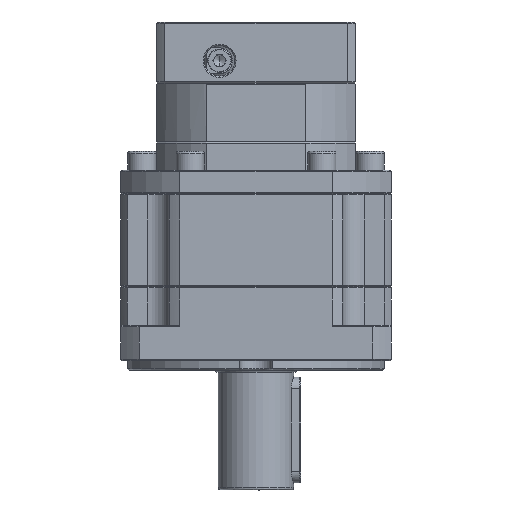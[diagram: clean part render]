
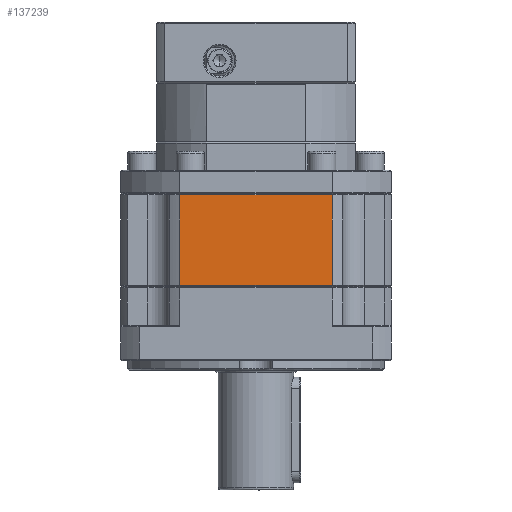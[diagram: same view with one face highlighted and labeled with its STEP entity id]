
A CAD part, front view. The second image highlights one B-rep face of the part: STEP entity #137239.
In plain terms, the highlighted planar face has unit normal (0, -1, 0).
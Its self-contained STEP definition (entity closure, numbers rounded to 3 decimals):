
#7378 = LINE ( 'NONE', #73364, #91417 ) ;
#8571 = DIRECTION ( 'NONE',  ( -1., 0., 0. ) ) ;
#14851 = DIRECTION ( 'NONE',  ( 1., 0., 0. ) ) ;
#18142 = VECTOR ( 'NONE', #49618, 1000. ) ;
#24256 = FACE_OUTER_BOUND ( 'NONE', #132597, .T. ) ;
#27385 = ORIENTED_EDGE ( 'NONE', *, *, #117340, .F. ) ;
#31471 = EDGE_CURVE ( 'NONE', #102543, #81424, #130819, .T. ) ;
#36442 = DIRECTION ( 'NONE',  ( 0., 0., 1. ) ) ;
#37966 = EDGE_CURVE ( 'NONE', #81424, #109333, #53628, .T. ) ;
#39287 = VERTEX_POINT ( 'NONE', #96054 ) ;
#43493 = PLANE ( 'NONE',  #104066 ) ;
#49618 = DIRECTION ( 'NONE',  ( 0., 0., -1. ) ) ;
#51025 = CARTESIAN_POINT ( 'NONE',  ( 52.831, 19.185, -77.748 ) ) ;
#53628 = LINE ( 'NONE', #113803, #18142 ) ;
#53812 = EDGE_CURVE ( 'NONE', #109333, #39287, #7378, .T. ) ;
#53850 = DIRECTION ( 'NONE',  ( -1., 0., 0. ) ) ;
#56265 = ORIENTED_EDGE ( 'NONE', *, *, #37966, .F. ) ;
#63721 = CARTESIAN_POINT ( 'NONE',  ( 110.331, 19.185, -77.248 ) ) ;
#69829 = LINE ( 'NONE', #91780, #128509 ) ;
#73364 = CARTESIAN_POINT ( 'NONE',  ( 110.331, 19.185, -116.248 ) ) ;
#73857 = VECTOR ( 'NONE', #14851, 1000. ) ;
#81424 = VERTEX_POINT ( 'NONE', #110684 ) ;
#82028 = CARTESIAN_POINT ( 'NONE',  ( 85.231, 19.185, -116.248 ) ) ;
#91417 = VECTOR ( 'NONE', #8571, 1000. ) ;
#91780 = CARTESIAN_POINT ( 'NONE',  ( 20.431, 19.185, -77.248 ) ) ;
#92542 = CARTESIAN_POINT ( 'NONE',  ( 20.431, 19.185, -77.748 ) ) ;
#95181 = ORIENTED_EDGE ( 'NONE', *, *, #31471, .F. ) ;
#96054 = CARTESIAN_POINT ( 'NONE',  ( 20.431, 19.185, -116.248 ) ) ;
#97625 = ORIENTED_EDGE ( 'NONE', *, *, #53812, .F. ) ;
#102543 = VERTEX_POINT ( 'NONE', #92542 ) ;
#104066 = AXIS2_PLACEMENT_3D ( 'NONE', #63721, #138712, #53850 ) ;
#109333 = VERTEX_POINT ( 'NONE', #82028 ) ;
#110684 = CARTESIAN_POINT ( 'NONE',  ( 85.231, 19.185, -77.748 ) ) ;
#113803 = CARTESIAN_POINT ( 'NONE',  ( 85.231, 19.185, -77.248 ) ) ;
#117340 = EDGE_CURVE ( 'NONE', #39287, #102543, #69829, .T. ) ;
#128509 = VECTOR ( 'NONE', #36442, 1000. ) ;
#130819 = LINE ( 'NONE', #51025, #73857 ) ;
#132597 = EDGE_LOOP ( 'NONE', ( #97625, #56265, #95181, #27385 ) ) ;
#137239 = ADVANCED_FACE ( 'NONE', ( #24256 ), #43493, .F. ) ;
#138712 = DIRECTION ( 'NONE',  ( 0., 1., 0. ) ) ;
